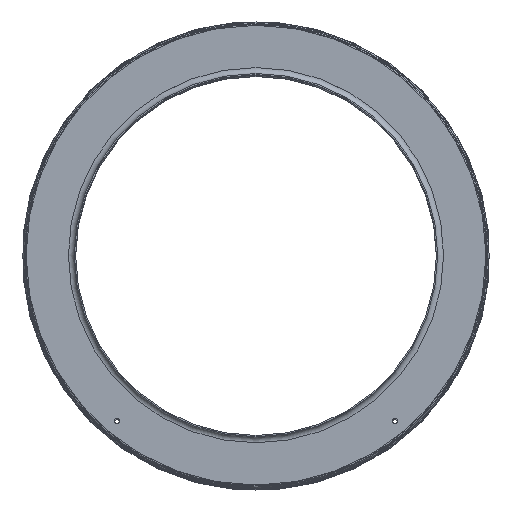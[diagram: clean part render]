
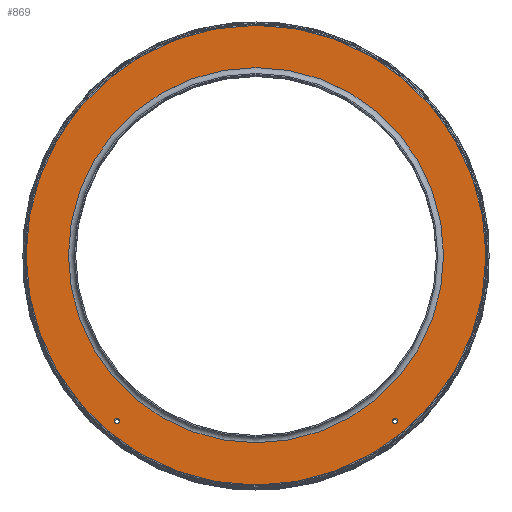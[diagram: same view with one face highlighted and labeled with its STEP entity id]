
A CAD part, top view. The second image highlights one B-rep face of the part: STEP entity #869.
In plain terms, the highlighted planar face has unit normal (0, 0, 1).
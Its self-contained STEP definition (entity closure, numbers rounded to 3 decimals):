
#189=PLANE('',#3637);
#698=CIRCLE('',#3584,2.6);
#708=CIRCLE('',#3625,182.3);
#709=CIRCLE('',#3627,223.4);
#712=CIRCLE('',#3633,2.6);
#869=ADVANCED_FACE('',(#1096,#1097,#1098,#1099),#189,.F.);
#1096=FACE_BOUND('',#1362,.T.);
#1097=FACE_BOUND('',#1363,.T.);
#1098=FACE_BOUND('',#1364,.T.);
#1099=FACE_BOUND('',#1365,.T.);
#1362=EDGE_LOOP('',(#2190));
#1363=EDGE_LOOP('',(#2191));
#1364=EDGE_LOOP('',(#2192));
#1365=EDGE_LOOP('',(#2193));
#2190=ORIENTED_EDGE('',*,*,#2990,.T.);
#2191=ORIENTED_EDGE('',*,*,#3076,.T.);
#2192=ORIENTED_EDGE('',*,*,#3073,.T.);
#2193=ORIENTED_EDGE('',*,*,#3072,.T.);
#2570=VERTEX_POINT('',#7757);
#2628=VERTEX_POINT('',#8720);
#2629=VERTEX_POINT('',#8723);
#2632=VERTEX_POINT('',#8732);
#2990=EDGE_CURVE('',#2570,#2570,#698,.T.);
#3072=EDGE_CURVE('',#2628,#2628,#708,.T.);
#3073=EDGE_CURVE('',#2629,#2629,#709,.T.);
#3076=EDGE_CURVE('',#2632,#2632,#712,.T.);
#3584=AXIS2_PLACEMENT_3D('',#7756,#4156,#4157);
#3625=AXIS2_PLACEMENT_3D('',#8719,#4262,#4263);
#3627=AXIS2_PLACEMENT_3D('',#8722,#4266,#4267);
#3633=AXIS2_PLACEMENT_3D('',#8731,#4278,#4279);
#3637=AXIS2_PLACEMENT_3D('',#8737,#4286,#4287);
#4156=DIRECTION('',(0.,0.,-1.));
#4157=DIRECTION('',(0.,1.,0.));
#4262=DIRECTION('',(0.,0.,-1.));
#4263=DIRECTION('',(0.,1.,0.));
#4266=DIRECTION('',(0.,0.,1.));
#4267=DIRECTION('',(0.,1.,0.));
#4278=DIRECTION('',(0.,0.,-1.));
#4279=DIRECTION('',(0.,-1.,0.));
#4286=DIRECTION('',(0.,0.,-1.));
#4287=DIRECTION('',(0.,-1.,0.));
#7756=CARTESIAN_POINT('',(-134.985,-160.869,123.7));
#7757=CARTESIAN_POINT('',(-134.985,-158.269,123.7));
#8719=CARTESIAN_POINT('',(0.,0.,123.7));
#8720=CARTESIAN_POINT('',(0.,182.3,123.7));
#8722=CARTESIAN_POINT('',(0.,0.,123.7));
#8723=CARTESIAN_POINT('',(0.,223.4,123.7));
#8731=CARTESIAN_POINT('',(134.985,-160.869,123.7));
#8732=CARTESIAN_POINT('',(134.985,-163.469,123.7));
#8737=CARTESIAN_POINT('',(0.,0.,123.7));
